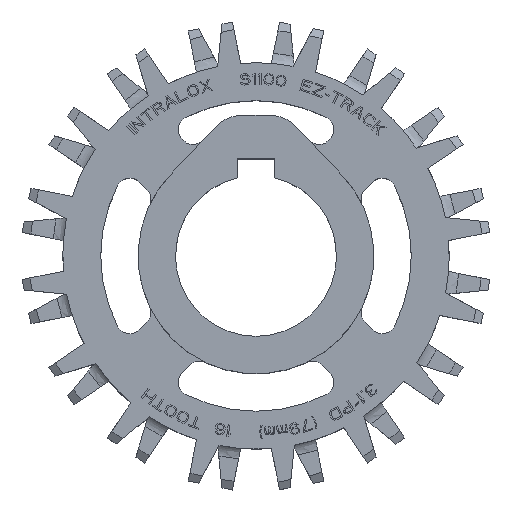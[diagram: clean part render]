
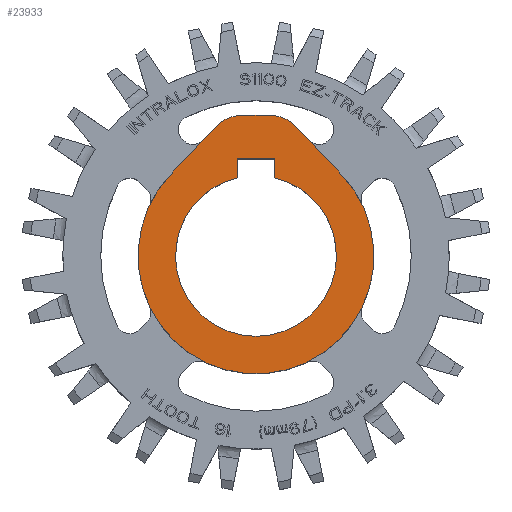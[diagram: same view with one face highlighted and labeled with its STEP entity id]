
A CAD part, top view. The second image highlights one B-rep face of the part: STEP entity #23933.
In plain terms, the highlighted planar face has unit normal (0, 0, 1).
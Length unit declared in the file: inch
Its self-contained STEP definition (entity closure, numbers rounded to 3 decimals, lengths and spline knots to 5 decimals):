
#5804=CARTESIAN_POINT('',(0.,0.,0.49));
#5805=DIRECTION('',(0.,0.,1.));
#5806=DIRECTION('',(-0.728,0.685,0.));
#5807=AXIS2_PLACEMENT_3D('',#5804,#5805,#5806);
#5809=DIRECTION('',(-0.685,-0.728,0.));
#5810=VECTOR('',#5809,0.43458);
#5811=CARTESIAN_POINT('',(-0.26958,0.85031,0.49));
#5812=LINE('',#5811,#5810);
#5813=CARTESIAN_POINT('',(-0.0875,0.679,0.49));
#5814=DIRECTION('',(0.,0.,1.));
#5815=DIRECTION('',(0.,1.,0.));
#5816=AXIS2_PLACEMENT_3D('',#5813,#5814,#5815);
#5818=DIRECTION('',(-1.,0.,0.));
#5819=VECTOR('',#5818,0.175);
#5820=CARTESIAN_POINT('',(0.0875,0.929,0.49));
#5821=LINE('',#5820,#5819);
#5822=CARTESIAN_POINT('',(0.0875,0.679,0.49));
#5823=DIRECTION('',(0.,0.,1.));
#5824=DIRECTION('',(0.728,0.685,0.));
#5825=AXIS2_PLACEMENT_3D('',#5822,#5823,#5824);
#5827=DIRECTION('',(-0.685,0.728,0.));
#5828=VECTOR('',#5827,0.43458);
#5829=CARTESIAN_POINT('',(0.56737,0.53379,0.49));
#5830=LINE('',#5829,#5828);
#5831=DIRECTION('',(0.,-1.,0.));
#5832=VECTOR('',#5831,0.125);
#5833=CARTESIAN_POINT('',(-0.125,0.64133,0.49));
#5834=LINE('',#5833,#5832);
#5835=CARTESIAN_POINT('',(0.,0.,0.49));
#5836=DIRECTION('',(0.,0.,1.));
#5837=DIRECTION('',(-0.235,0.972,0.));
#5838=AXIS2_PLACEMENT_3D('',#5835,#5836,#5837);
#5840=DIRECTION('',(0.,1.,0.));
#5841=VECTOR('',#5840,0.125);
#5842=CARTESIAN_POINT('',(0.125,0.51633,0.49));
#5843=LINE('',#5842,#5841);
#5844=DIRECTION('',(-1.,0.,0.));
#5845=VECTOR('',#5844,0.25);
#5846=CARTESIAN_POINT('',(0.125,0.64133,0.49));
#5847=LINE('',#5846,#5845);
#15432=CARTESIAN_POINT('',(-0.56737,0.53379,0.49));
#15433=CARTESIAN_POINT('',(0.56737,0.53379,0.49));
#15434=VERTEX_POINT('',#15432);
#15435=VERTEX_POINT('',#15433);
#15444=CARTESIAN_POINT('',(0.26958,0.85031,0.49));
#15445=VERTEX_POINT('',#15444);
#15446=CARTESIAN_POINT('',(0.0875,0.929,0.49));
#15447=VERTEX_POINT('',#15446);
#15448=CARTESIAN_POINT('',(-0.0875,0.929,0.49));
#15449=VERTEX_POINT('',#15448);
#15450=CARTESIAN_POINT('',(-0.26958,0.85031,0.49));
#15451=VERTEX_POINT('',#15450);
#19174=CARTESIAN_POINT('',(-0.125,0.64133,0.49));
#19175=CARTESIAN_POINT('',(-0.125,0.51633,0.49));
#19176=VERTEX_POINT('',#19174);
#19177=VERTEX_POINT('',#19175);
#19178=CARTESIAN_POINT('',(0.125,0.51633,0.49));
#19179=VERTEX_POINT('',#19178);
#19180=CARTESIAN_POINT('',(0.125,0.64133,0.49));
#19181=VERTEX_POINT('',#19180);
#23906=CARTESIAN_POINT('',(0.,0.,0.49));
#23907=DIRECTION('',(0.,0.,1.));
#23908=DIRECTION('',(1.,0.,0.));
#23909=AXIS2_PLACEMENT_3D('',#23906,#23907,#23908);
#23910=PLANE('',#23909);
#23911=ORIENTED_EDGE('',*,*,#23693,.F.);
#23912=ORIENTED_EDGE('',*,*,#23676,.F.);
#23914=ORIENTED_EDGE('',*,*,#23913,.F.);
#23916=ORIENTED_EDGE('',*,*,#23915,.F.);
#23918=ORIENTED_EDGE('',*,*,#23917,.F.);
#23920=ORIENTED_EDGE('',*,*,#23919,.F.);
#23921=EDGE_LOOP('',(#23911,#23912,#23914,#23916,#23918,#23920));
#23922=FACE_OUTER_BOUND('',#23921,.F.);
#23924=ORIENTED_EDGE('',*,*,#23923,.T.);
#23926=ORIENTED_EDGE('',*,*,#23925,.T.);
#23928=ORIENTED_EDGE('',*,*,#23927,.T.);
#23930=ORIENTED_EDGE('',*,*,#23929,.T.);
#23931=EDGE_LOOP('',(#23924,#23926,#23928,#23930));
#23932=FACE_BOUND('',#23931,.F.);
#23933=ADVANCED_FACE('',(#23922,#23932),#23910,.T.);
#5808=CIRCLE('',#5807,0.779);
#5817=CIRCLE('',#5816,0.25);
#5826=CIRCLE('',#5825,0.25);
#5839=CIRCLE('',#5838,0.53125);
#23676=EDGE_CURVE('',#15451,#15434,#5812,.T.);
#23693=EDGE_CURVE('',#15434,#15435,#5808,.T.);
#23913=EDGE_CURVE('',#15449,#15451,#5817,.T.);
#23915=EDGE_CURVE('',#15447,#15449,#5821,.T.);
#23917=EDGE_CURVE('',#15445,#15447,#5826,.T.);
#23919=EDGE_CURVE('',#15435,#15445,#5830,.T.);
#23923=EDGE_CURVE('',#19176,#19177,#5834,.T.);
#23925=EDGE_CURVE('',#19177,#19179,#5839,.T.);
#23927=EDGE_CURVE('',#19179,#19181,#5843,.T.);
#23929=EDGE_CURVE('',#19181,#19176,#5847,.T.);
